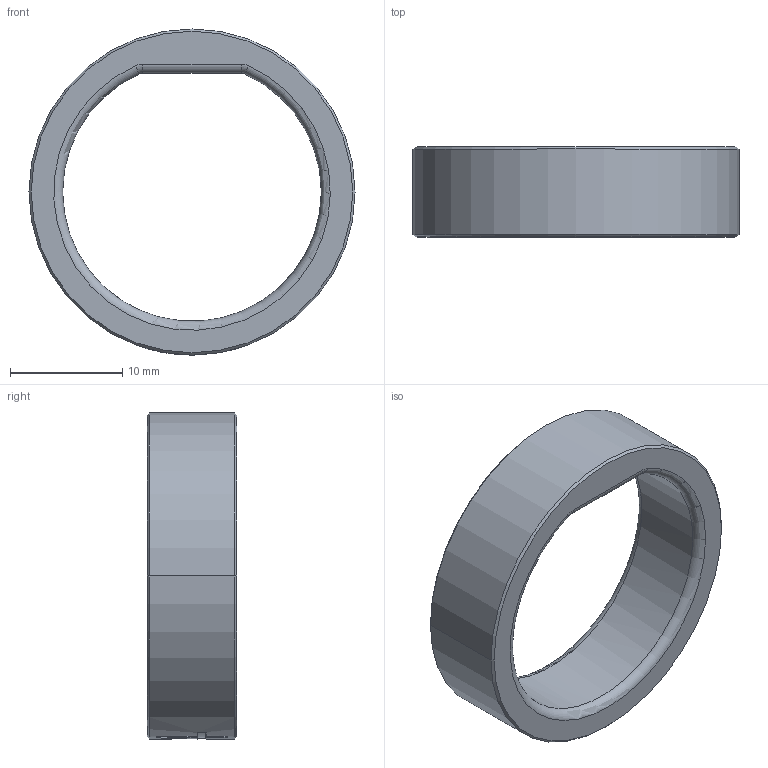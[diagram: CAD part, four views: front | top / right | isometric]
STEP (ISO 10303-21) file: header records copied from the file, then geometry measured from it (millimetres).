
FILE_DESCRIPTION((''),'2;1');
FILE_NAME('14','2026-09-02T10:50:34',('krisl'),(''),'CREO PARAMETRIC BY PTC INC, 2024063','CREO PARAMETRIC BY PTC INC, 2024063','');
FILE_SCHEMA(('CONFIG_CONTROL_DESIGN'));
Length unit declared in the file: millimetre
Products named in the file (1): 14
Bounding box: 29 x 8 x 29 mm (x, y, z)
Volume: 1978.9 mm3; surface area: 1743.2 mm2
Topology: 1 solids, 1 shells, 44 faces, 117 edges, 78 vertices
Faces by surface type: bspline 21, cylinder 10, torus 6, cone 4, plane 3
Entity records: 1708 total; most frequent: CARTESIAN_POINT 629, ORIENTED_EDGE 234, DIRECTION 190, EDGE_CURVE 117, AXIS2_PLACEMENT_3D 79, VERTEX_POINT 78, CIRCLE 56, EDGE_LOOP 49
